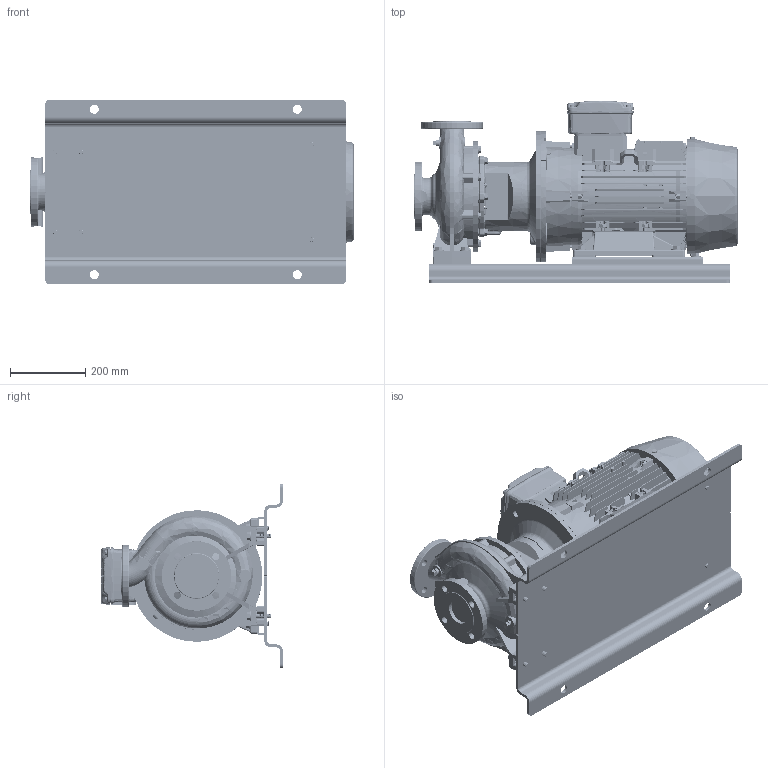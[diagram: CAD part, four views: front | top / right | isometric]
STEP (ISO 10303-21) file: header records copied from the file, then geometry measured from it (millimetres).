
FILE_DESCRIPTION (( 'STEP AP214' ), '1' );
FILE_NAME ('GSD2 50-200_15.0 & 18.5_(160ML)_W21_BP.STEP', '2024-04-26T06:12:06', ( '' ), ( '' ), 'SwSTEP 2.0', 'SolidWorks 2019', '' );
FILE_SCHEMA (( 'AUTOMOTIVE_DESIGN' ));
Length unit declared in the file: inch
Products named in the file (20): Parametric bolt and washer_SFT-A301B-4.STEP; Parametric bolt and washer_SFT-A301B.STEP; 50-200-160M_L.STEP; Parametric bolt and washer_SFT-A301B-5.STEP; Parametric bolt_SFT-A309B.STEP; 160M_L_ALIE3W21T_B35.STEP; CGS11-5301_2_3_4_5_CGS11-5301.STEP; GSD2 50-200_15KW.STEP; GSD2  50-200_15.0 & 18.5_(160ML)_W21_BP; Parametric bolt_SFT-A301B.STEP; Parametric bolt and washer_SFT-A301B-3.STEP; 210_254 x 20 - 271472113.STEP; Parametric bolt and washer_SFT-A309B-2.STEP; Parametric bolt and washer_SFT-A301B-1.STEP; Parametric bolt and washer_SFT-A309B-3.STEP; Parametric bolt and washer_SFT-A309B-1.STEP; Parametric Flat Washer_M12.STEP; Parametric bolt and washer_SFT-A301B-2.STEP; Parametric bolt and washer_SFT-A309B.STEP; N5S3 GSDA-533 F11832924-00.STEP
Assembly tree (38 placements, depth 4):
  GSD2  50-200_15.0 & 18.5_(160ML)_W21_BP
    GSD2 50-200_15KW.STEP
      Parametric bolt and washer_SFT-A309B.STEP
        Parametric bolt_SFT-A309B.STEP
        Parametric Flat Washer_M12.STEP
      Parametric bolt and washer_SFT-A309B-1.STEP
        Parametric bolt_SFT-A309B.STEP
        Parametric Flat Washer_M12.STEP
      Parametric bolt and washer_SFT-A309B-2.STEP
        Parametric bolt_SFT-A309B.STEP
        Parametric Flat Washer_M12.STEP
      Parametric bolt and washer_SFT-A309B-3.STEP
        Parametric bolt_SFT-A309B.STEP
        Parametric Flat Washer_M12.STEP
      Parametric bolt and washer_SFT-A301B.STEP
        Parametric bolt_SFT-A301B.STEP
        Parametric Flat Washer_M12.STEP
      Parametric bolt and washer_SFT-A301B-1.STEP
        Parametric bolt_SFT-A301B.STEP
        Parametric Flat Washer_M12.STEP
      Parametric bolt and washer_SFT-A301B-2.STEP
        Parametric bolt_SFT-A301B.STEP
        Parametric Flat Washer_M12.STEP
      Parametric bolt and washer_SFT-A301B-3.STEP
        Parametric bolt_SFT-A301B.STEP
        Parametric Flat Washer_M12.STEP
      Parametric bolt and washer_SFT-A301B-4.STEP
        Parametric bolt_SFT-A301B.STEP
        Parametric Flat Washer_M12.STEP
      Parametric bolt and washer_SFT-A301B-5.STEP
        Parametric bolt_SFT-A301B.STEP
        Parametric Flat Washer_M12.STEP
      50-200-160M_L.STEP
      N5S3 GSDA-533 F11832924-00.STEP
      CGS11-5301_2_3_4_5_CGS11-5301.STEP  x2
      210_254 x 20 - 271472113.STEP  x2
      160M_L_ALIE3W21T_B35.STEP
Bounding box: 860.3 x 484.53 x 490 mm (x, y, z)
Volume: 47997109.9 mm3; surface area: 3792414.2 mm2
Topology: 64 solids, 70 shells, 6449 faces, 16796 edges, 10922 vertices
Faces by surface type: plane 3854, cylinder 1312, cone 575, bspline 433, torus 257, sphere 18
Entity records: 228040 total; most frequent: CARTESIAN_POINT 86970, ORIENTED_EDGE 30772, DIRECTION 26247, EDGE_CURVE 15386, VERTEX_POINT 10026, LINE 9767, VECTOR 9767, AXIS2_PLACEMENT_3D 8240
